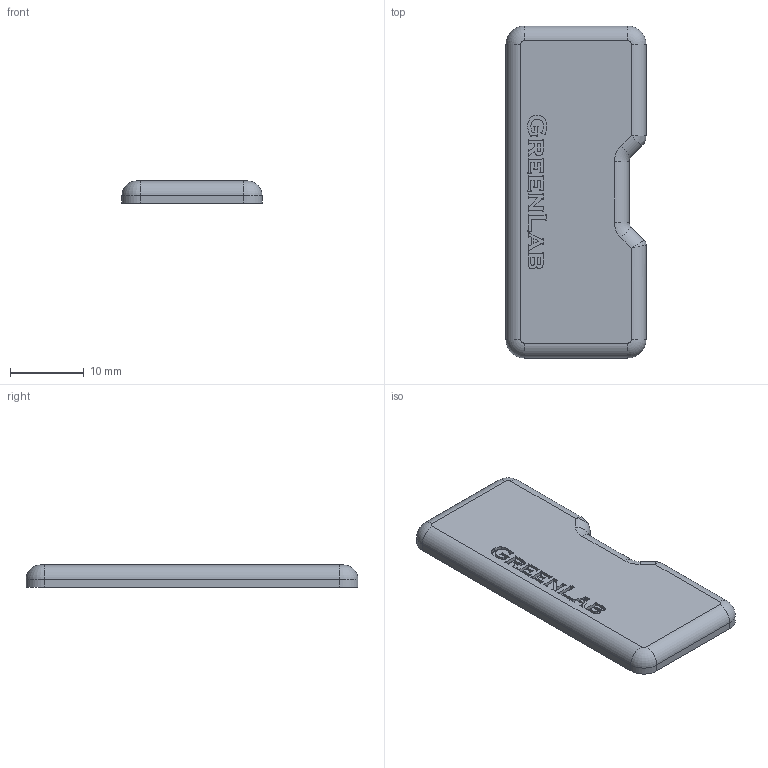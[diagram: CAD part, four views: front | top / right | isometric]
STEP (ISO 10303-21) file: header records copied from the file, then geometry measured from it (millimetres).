
FILE_DESCRIPTION (( 'STEP AP214' ), '1' );
FILE_NAME ('1.1055 Päätysuoja 19X45 musta.STEP', '2023-12-05T07:08:48', ( '' ), ( '' ), 'SwSTEP 2.0', 'SolidWorks 2019', '' );
FILE_SCHEMA (( 'AUTOMOTIVE_DESIGN' ));
Length unit declared in the file: millimetre
Products named in the file (1): 1.1055 Päätysuoja 19X45 musta
Bounding box: 19 x 45 x 3 mm (x, y, z)
Volume: 2354.8 mm3; surface area: 1967.7 mm2
Topology: 1 solids, 1 shells, 256 faces, 710 edges, 467 vertices
Faces by surface type: plane 147, bspline 89, cylinder 14, torus 6
Entity records: 11028 total; most frequent: CARTESIAN_POINT 5055, ORIENTED_EDGE 1418, DIRECTION 896, EDGE_CURVE 709, LINE 496, VECTOR 496, VERTEX_POINT 467, EDGE_LOOP 268
